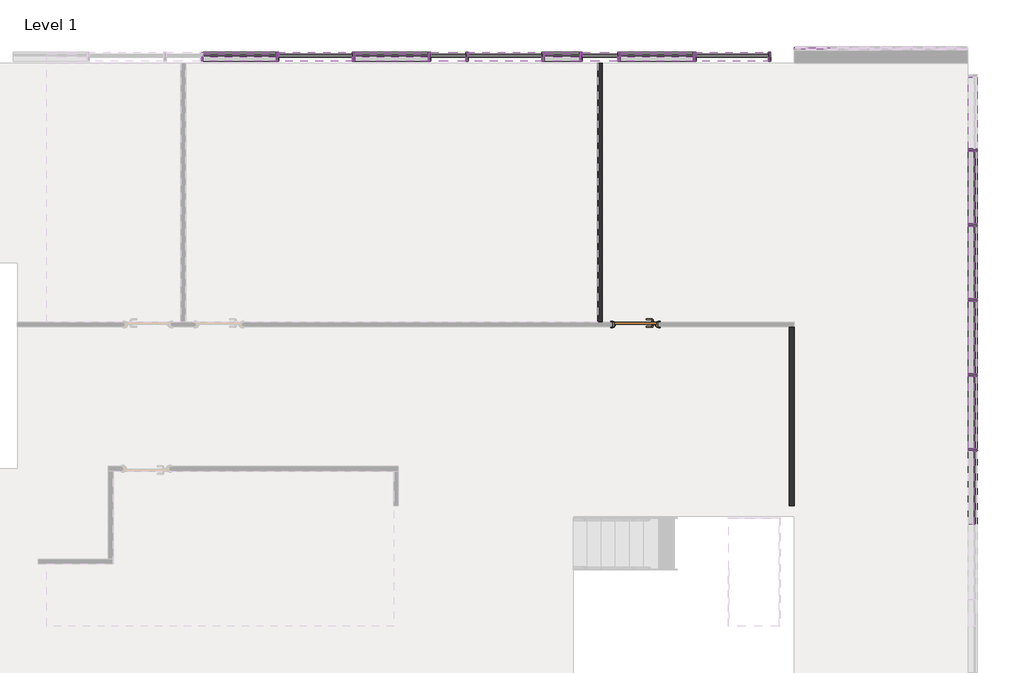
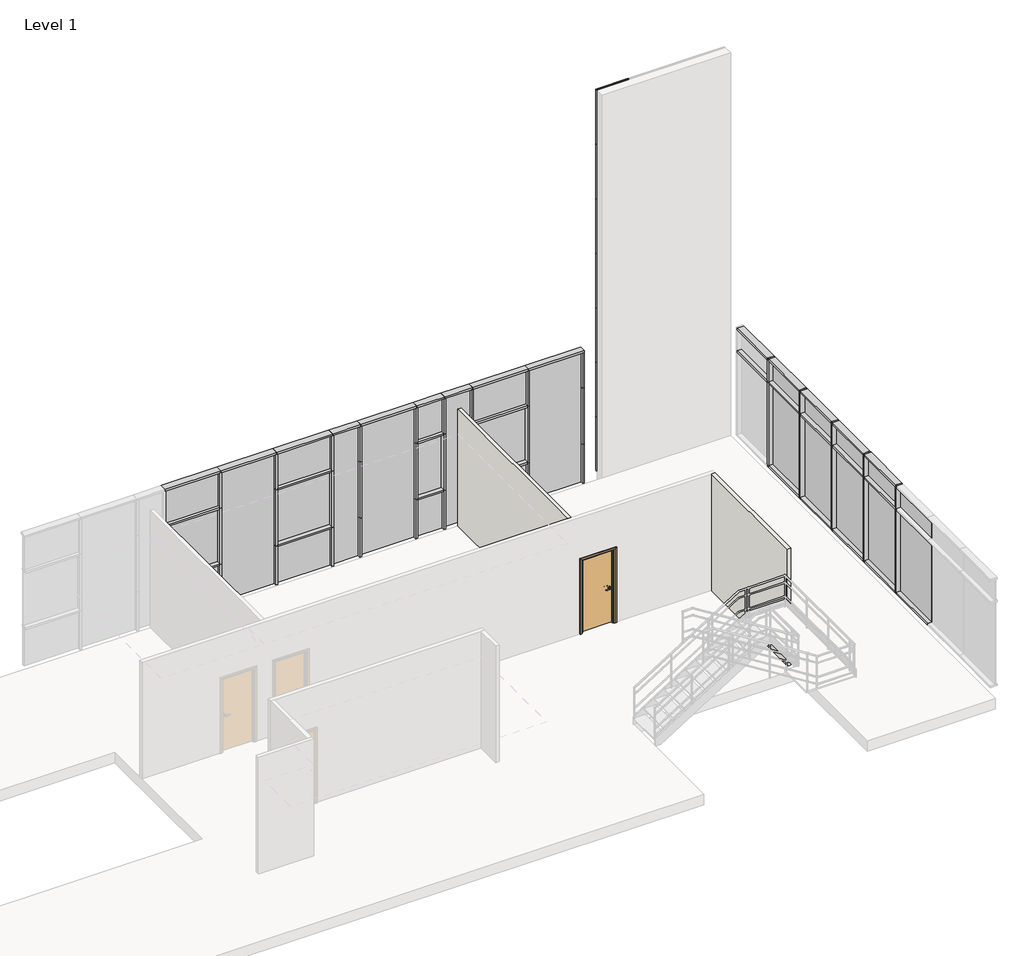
# One storey, part 6 of 10: 82 members, 27 plates, 2 walls, 1 door.
"""IFC4 building model written with IfcOpenShell, lengths in millimetres."""

from ifc_helpers import new_model, si_unit, frame, origin, place, context, project, spatial, polyline, outline, extrude, transform, mapped, element, save
from components import doors_intsgl_1_910x2110mm_ba118736, rectangular_mullion_25x25mm_154c87ff, rectangular_mullion_25x25mm_39486c0a, rectangular_mullion_25x25mm_7ca17579, rectangular_mullion_25x25mm_b3a713a3, rectangular_mullion_50x180mm_27940352, rectangular_mullion_50x180mm_f781141c, rectangular_mullion_50x180mm_fd91253e, rectangular_mullion_50x180mm_cfc9efda, rectangular_mullion_50x180mm_c30fec06, rectangular_mullion_50x180mm_55b63a96, rectangular_mullion_50x180mm_95299f7d, rectangular_mullion_50x180mm_7153291d, rectangular_mullion_50x180mm_f19e9633, rectangular_mullion_50x180mm_b6846536, rectangular_mullion_50x180mm_cd79a6a2, rectangular_mullion_50x180mm_1be9a22b, rectangular_mullion_50x180mm_9c6cddf7, rectangular_mullion_50x180mm_ee9895d7, rectangular_mullion_50x180mm_6af64579, rectangular_mullion_50x180mm_418feb2d, rectangular_mullion_50x180mm_827d9562, system_panel_black_panel_9e4711d2, system_panel_dark_grey_panel_d75652f0, system_panel_dark_grey_panel_1d6e0621, system_panel_glazed_dd63f223, system_panel_glazed_4915e1a0, system_panel_glazed_7f1c0332, system_panel_glazed_28d323ef, system_panel_glazed_53acddae, system_panel_glazed_79299351, system_panel_white_panel_6a64f577, system_panel_white_panel_a9ca731a, system_panel_white_panel_6c6c8c82, system_panel_white_panel_ff540c20

model = new_model("IFC4")

# Units and contexts
model_context = context("Model", 3, world=origin())
ifc_project = project(units=[si_unit("LENGTHUNIT", "METRE", prefix="MILLI")], contexts=[model_context])

# Site, building, storey
site = spatial("IfcSite", under=ifc_project)
building = spatial("IfcBuilding", under=site)
storey = spatial("IfcBuildingStorey", under=building, Name="Level 1", Elevation=3750.0)

# Door
placement = place(None, origin())
doors_intsgl_1_910x2110mm_shape = doors_intsgl_1_910x2110mm_ba118736(model_context)
element("IfcDoor", 1, ObjectType="Doors_IntSgl_1 : 910x2110mm", at=placement, inside=storey, context=model_context, shape_type="MappedRepresentation", body=[
    mapped(doors_intsgl_1_910x2110mm_shape, transform((36520.7942367, 3837.3025486, 3750.0), x_axis=(-1.0, 0.0, 0.0), y_axis=(0.0, -1.0, 0.0), z_axis=(0.0, 0.0, 1.0))),
])

# Members
rectangular_mullion_25x25mm_shape = rectangular_mullion_25x25mm_154c87ff(model_context)
element("IfcMember", 2, ObjectType="Rectangular Mullion : 25x25mm", at=placement, inside=storey, context=model_context, shape_type="MappedRepresentation", body=[
    mapped(rectangular_mullion_25x25mm_shape, transform((39655.7942367, 9282.4946591, 3775.0), x_axis=(-1.0, 0.0, 0.0), y_axis=(0.0, 1.0, 0.0), z_axis=(0.0, 0.0, -1.0))),
])
rectangular_mullion_25x25mm_2_shape = rectangular_mullion_25x25mm_39486c0a(model_context)
element("IfcMember", 3, ObjectType="Rectangular Mullion : 25x25mm", at=placement, inside=storey, context=model_context, shape_type="MappedRepresentation", body=[
    mapped(rectangular_mullion_25x25mm_2_shape, transform((39655.7942367, 9282.4946591, 5308.9285714), x_axis=(-1.0, 0.0, 0.0), y_axis=(0.0, 1.0, 0.0), z_axis=(0.0, 0.0, -1.0))),
])
element("IfcMember", 4, ObjectType="Rectangular Mullion : 25x25mm", at=placement, inside=storey, context=model_context, shape_type="MappedRepresentation", body=[
    mapped(rectangular_mullion_25x25mm_2_shape, transform((39655.7942367, 9282.4946591, 6855.3571429), x_axis=(-1.0, 0.0, 0.0), y_axis=(0.0, 1.0, 0.0), z_axis=(0.0, 0.0, -1.0))),
])
element("IfcMember", 5, ObjectType="Rectangular Mullion : 25x25mm", at=placement, inside=storey, context=model_context, shape_type="MappedRepresentation", body=[
    mapped(rectangular_mullion_25x25mm_2_shape, transform((39655.7942367, 9282.4946591, 8401.7857143), x_axis=(-1.0, 0.0, 0.0), y_axis=(0.0, 1.0, 0.0), z_axis=(0.0, 0.0, -1.0))),
])
element("IfcMember", 6, ObjectType="Rectangular Mullion : 25x25mm", at=placement, inside=storey, context=model_context, shape_type="MappedRepresentation", body=[
    mapped(rectangular_mullion_25x25mm_2_shape, transform((39655.7942367, 9282.4946591, 9948.2142857), x_axis=(-1.0, 0.0, 0.0), y_axis=(0.0, 1.0, 0.0), z_axis=(0.0, 0.0, -1.0))),
])
element("IfcMember", 7, ObjectType="Rectangular Mullion : 25x25mm", at=placement, inside=storey, context=model_context, shape_type="MappedRepresentation", body=[
    mapped(rectangular_mullion_25x25mm_2_shape, transform((39655.7942367, 9282.4946591, 11494.6428571), x_axis=(-1.0, 0.0, 0.0), y_axis=(0.0, 1.0, 0.0), z_axis=(0.0, 0.0, -1.0))),
])
element("IfcMember", 8, ObjectType="Rectangular Mullion : 25x25mm", at=placement, inside=storey, context=model_context, shape_type="MappedRepresentation", body=[
    mapped(rectangular_mullion_25x25mm_shape, transform((39655.7942367, 9282.4946591, 13041.0714286), x_axis=(-1.0, 0.0, 0.0), y_axis=(0.0, 1.0, 0.0), z_axis=(0.0, 0.0, -1.0))),
])
rectangular_mullion_25x25mm_3_shape = rectangular_mullion_25x25mm_7ca17579(model_context)
element("IfcMember", 9, ObjectType="Rectangular Mullion : 25x25mm", at=placement, inside=storey, context=model_context, shape_type="MappedRepresentation", body=[
    mapped(rectangular_mullion_25x25mm_3_shape, transform((39655.7942367, 9282.4946591, 14600.0), x_axis=(0.0, 0.0, 1.0), y_axis=(0.0, 1.0, 0.0), z_axis=(-1.0, 0.0, 0.0))),
])
rectangular_mullion_25x25mm_4_shape = rectangular_mullion_25x25mm_b3a713a3(model_context)
element("IfcMember", 10, ObjectType="Rectangular Mullion : 25x25mm", at=placement, inside=storey, context=model_context, shape_type="MappedRepresentation", body=[
    mapped(rectangular_mullion_25x25mm_4_shape, transform((39680.7942367, 9282.4946591, 5308.9285714), x_axis=(0.0, 0.0, 1.0), y_axis=(0.0, 1.0, 0.0), z_axis=(-1.0, 0.0, 0.0))),
])
element("IfcMember", 11, ObjectType="Rectangular Mullion : 25x25mm", at=placement, inside=storey, context=model_context, shape_type="MappedRepresentation", body=[
    mapped(rectangular_mullion_25x25mm_4_shape, transform((39680.7942367, 9282.4946591, 6855.3571429), x_axis=(0.0, 0.0, 1.0), y_axis=(0.0, 1.0, 0.0), z_axis=(-1.0, 0.0, 0.0))),
])
element("IfcMember", 12, ObjectType="Rectangular Mullion : 25x25mm", at=placement, inside=storey, context=model_context, shape_type="MappedRepresentation", body=[
    mapped(rectangular_mullion_25x25mm_4_shape, transform((39680.7942367, 9282.4946591, 8401.7857143), x_axis=(0.0, 0.0, 1.0), y_axis=(0.0, 1.0, 0.0), z_axis=(-1.0, 0.0, 0.0))),
])
element("IfcMember", 13, ObjectType="Rectangular Mullion : 25x25mm", at=placement, inside=storey, context=model_context, shape_type="MappedRepresentation", body=[
    mapped(rectangular_mullion_25x25mm_4_shape, transform((39680.7942367, 9282.4946591, 9948.2142857), x_axis=(0.0, 0.0, 1.0), y_axis=(0.0, 1.0, 0.0), z_axis=(-1.0, 0.0, 0.0))),
])
element("IfcMember", 14, ObjectType="Rectangular Mullion : 25x25mm", at=placement, inside=storey, context=model_context, shape_type="MappedRepresentation", body=[
    mapped(rectangular_mullion_25x25mm_4_shape, transform((39680.7942367, 9282.4946591, 11494.6428571), x_axis=(0.0, 0.0, 1.0), y_axis=(0.0, 1.0, 0.0), z_axis=(-1.0, 0.0, 0.0))),
])
rectangular_mullion_50x180mm_shape = rectangular_mullion_50x180mm_27940352(model_context)
element("IfcMember", 15, ObjectType="Rectangular Mullion : 50x180mm", at=placement, inside=storey, context=model_context, shape_type="MappedRepresentation", body=[
    mapped(rectangular_mullion_50x180mm_shape, transform((37693.2942367, 9132.4946591, 3750.0), x_axis=(1.0, 0.0, 0.0), y_axis=(0.0, -1.0, 0.0), z_axis=(0.0, 0.0, -1.0))),
])
element("IfcMember", 16, ObjectType="Rectangular Mullion : 50x180mm", at=placement, inside=storey, context=model_context, shape_type="MappedRepresentation", body=[
    mapped(rectangular_mullion_50x180mm_shape, transform((36193.2942367, 9132.4946591, 3750.0), x_axis=(1.0, 0.0, 0.0), y_axis=(0.0, -1.0, 0.0), z_axis=(0.0, 0.0, -1.0))),
])
element("IfcMember", 17, ObjectType="Rectangular Mullion : 50x180mm", at=placement, inside=storey, context=model_context, shape_type="MappedRepresentation", body=[
    mapped(rectangular_mullion_50x180mm_shape, transform((35443.2942367, 9132.4946591, 3750.0), x_axis=(1.0, 0.0, 0.0), y_axis=(0.0, -1.0, 0.0), z_axis=(0.0, 0.0, -1.0))),
])
element("IfcMember", 18, ObjectType="Rectangular Mullion : 50x180mm", at=placement, inside=storey, context=model_context, shape_type="MappedRepresentation", body=[
    mapped(rectangular_mullion_50x180mm_shape, transform((34693.2942367, 9132.4946591, 3750.0), x_axis=(1.0, 0.0, 0.0), y_axis=(0.0, -1.0, 0.0), z_axis=(0.0, 0.0, -1.0))),
])
element("IfcMember", 19, ObjectType="Rectangular Mullion : 50x180mm", at=placement, inside=storey, context=model_context, shape_type="MappedRepresentation", body=[
    mapped(rectangular_mullion_50x180mm_shape, transform((32443.2942367, 9132.4946591, 3750.0), x_axis=(1.0, 0.0, 0.0), y_axis=(0.0, -1.0, 0.0), z_axis=(0.0, 0.0, -1.0))),
])
element("IfcMember", 20, ObjectType="Rectangular Mullion : 50x180mm", at=placement, inside=storey, context=model_context, shape_type="MappedRepresentation", body=[
    mapped(rectangular_mullion_50x180mm_shape, transform((30943.2942367, 9132.4946591, 3750.0), x_axis=(1.0, 0.0, 0.0), y_axis=(0.0, -1.0, 0.0), z_axis=(0.0, 0.0, -1.0))),
])
element("IfcMember", 21, ObjectType="Rectangular Mullion : 50x180mm", at=placement, inside=storey, context=model_context, shape_type="MappedRepresentation", body=[
    mapped(rectangular_mullion_50x180mm_shape, transform((29443.2942367, 9132.4946591, 3750.0), x_axis=(1.0, 0.0, 0.0), y_axis=(0.0, -1.0, 0.0), z_axis=(0.0, 0.0, -1.0))),
])
element("IfcMember", 22, ObjectType="Rectangular Mullion : 50x180mm", at=placement, inside=storey, context=model_context, shape_type="MappedRepresentation", body=[
    mapped(rectangular_mullion_50x180mm_shape, transform((33193.2942367, 9132.4946591, 3750.0), x_axis=(1.0, 0.0, 0.0), y_axis=(0.0, -1.0, 0.0), z_axis=(0.0, 0.0, -1.0))),
])
rectangular_mullion_50x180mm_2_shape = rectangular_mullion_50x180mm_f781141c(model_context)
element("IfcMember", 23, ObjectType="Rectangular Mullion : 50x180mm", at=placement, inside=storey, context=model_context, shape_type="MappedRepresentation", body=[
    mapped(rectangular_mullion_50x180mm_2_shape, transform((29443.2942367, 9132.4946591, 4850.0), x_axis=(1.0, 0.0, 0.0), y_axis=(0.0, -1.0, 0.0), z_axis=(0.0, 0.0, -1.0))),
])
element("IfcMember", 24, ObjectType="Rectangular Mullion : 50x180mm", at=placement, inside=storey, context=model_context, shape_type="MappedRepresentation", body=[
    mapped(rectangular_mullion_50x180mm_2_shape, transform((30943.2942367, 9132.4946591, 4850.0), x_axis=(1.0, 0.0, 0.0), y_axis=(0.0, -1.0, 0.0), z_axis=(0.0, 0.0, -1.0))),
])
element("IfcMember", 25, ObjectType="Rectangular Mullion : 50x180mm", at=placement, inside=storey, context=model_context, shape_type="MappedRepresentation", body=[
    mapped(rectangular_mullion_50x180mm_2_shape, transform((32443.2942367, 9132.4946591, 4850.0), x_axis=(1.0, 0.0, 0.0), y_axis=(0.0, -1.0, 0.0), z_axis=(0.0, 0.0, -1.0))),
])
element("IfcMember", 26, ObjectType="Rectangular Mullion : 50x180mm", at=placement, inside=storey, context=model_context, shape_type="MappedRepresentation", body=[
    mapped(rectangular_mullion_50x180mm_2_shape, transform((34693.2942367, 9132.4946591, 4850.0), x_axis=(1.0, 0.0, 0.0), y_axis=(0.0, -1.0, 0.0), z_axis=(0.0, 0.0, -1.0))),
])
element("IfcMember", 27, ObjectType="Rectangular Mullion : 50x180mm", at=placement, inside=storey, context=model_context, shape_type="MappedRepresentation", body=[
    mapped(rectangular_mullion_50x180mm_2_shape, transform((35443.2942367, 9132.4946591, 4850.0), x_axis=(1.0, 0.0, 0.0), y_axis=(0.0, -1.0, 0.0), z_axis=(0.0, 0.0, -1.0))),
])
element("IfcMember", 28, ObjectType="Rectangular Mullion : 50x180mm", at=placement, inside=storey, context=model_context, shape_type="MappedRepresentation", body=[
    mapped(rectangular_mullion_50x180mm_2_shape, transform((36193.2942367, 9132.4946591, 4850.0), x_axis=(1.0, 0.0, 0.0), y_axis=(0.0, -1.0, 0.0), z_axis=(0.0, 0.0, -1.0))),
])
element("IfcMember", 29, ObjectType="Rectangular Mullion : 50x180mm", at=placement, inside=storey, context=model_context, shape_type="MappedRepresentation", body=[
    mapped(rectangular_mullion_50x180mm_2_shape, transform((37693.2942367, 9132.4946591, 4850.0), x_axis=(1.0, 0.0, 0.0), y_axis=(0.0, -1.0, 0.0), z_axis=(0.0, 0.0, -1.0))),
])
element("IfcMember", 30, ObjectType="Rectangular Mullion : 50x180mm", at=placement, inside=storey, context=model_context, shape_type="MappedRepresentation", body=[
    mapped(rectangular_mullion_50x180mm_2_shape, transform((33193.2942367, 9132.4946591, 4850.0), x_axis=(1.0, 0.0, 0.0), y_axis=(0.0, -1.0, 0.0), z_axis=(0.0, 0.0, -1.0))),
])
rectangular_mullion_50x180mm_3_shape = rectangular_mullion_50x180mm_fd91253e(model_context)
element("IfcMember", 31, ObjectType="Rectangular Mullion : 50x180mm", at=placement, inside=storey, context=model_context, shape_type="MappedRepresentation", body=[
    mapped(rectangular_mullion_50x180mm_3_shape, transform((37668.2942367, 9132.4946591, 4850.0), x_axis=(0.0, 0.0, 1.0), y_axis=(0.0, -1.0, 0.0), z_axis=(1.0, 0.0, 0.0))),
])
element("IfcMember", 32, ObjectType="Rectangular Mullion : 50x180mm", at=placement, inside=storey, context=model_context, shape_type="MappedRepresentation", body=[
    mapped(rectangular_mullion_50x180mm_3_shape, transform((37668.2942367, 9132.4946591, 6450.0), x_axis=(0.0, 0.0, 1.0), y_axis=(0.0, -1.0, 0.0), z_axis=(1.0, 0.0, 0.0))),
])
element("IfcMember", 33, ObjectType="Rectangular Mullion : 50x180mm", at=placement, inside=storey, context=model_context, shape_type="MappedRepresentation", body=[
    mapped(rectangular_mullion_50x180mm_3_shape, transform((29418.2942367, 9132.4946591, 4850.0), x_axis=(0.0, 0.0, 1.0), y_axis=(0.0, -1.0, 0.0), z_axis=(1.0, 0.0, 0.0))),
])
element("IfcMember", 34, ObjectType="Rectangular Mullion : 50x180mm", at=placement, inside=storey, context=model_context, shape_type="MappedRepresentation", body=[
    mapped(rectangular_mullion_50x180mm_3_shape, transform((32418.2942367, 9132.4946591, 4850.0), x_axis=(0.0, 0.0, 1.0), y_axis=(0.0, -1.0, 0.0), z_axis=(1.0, 0.0, 0.0))),
])
element("IfcMember", 35, ObjectType="Rectangular Mullion : 50x180mm", at=placement, inside=storey, context=model_context, shape_type="MappedRepresentation", body=[
    mapped(rectangular_mullion_50x180mm_3_shape, transform((29418.2942367, 9132.4946591, 6450.0), x_axis=(0.0, 0.0, 1.0), y_axis=(0.0, -1.0, 0.0), z_axis=(1.0, 0.0, 0.0))),
])
element("IfcMember", 36, ObjectType="Rectangular Mullion : 50x180mm", at=placement, inside=storey, context=model_context, shape_type="MappedRepresentation", body=[
    mapped(rectangular_mullion_50x180mm_3_shape, transform((32418.2942367, 9132.4946591, 6450.0), x_axis=(0.0, 0.0, 1.0), y_axis=(0.0, -1.0, 0.0), z_axis=(1.0, 0.0, 0.0))),
])
rectangular_mullion_50x180mm_4_shape = rectangular_mullion_50x180mm_cfc9efda(model_context)
element("IfcMember", 37, ObjectType="Rectangular Mullion : 50x180mm", at=placement, inside=storey, context=model_context, shape_type="MappedRepresentation", body=[
    mapped(rectangular_mullion_50x180mm_4_shape, transform((35418.2942367, 9132.4946591, 6450.0), x_axis=(0.0, 0.0, 1.0), y_axis=(0.0, -1.0, 0.0), z_axis=(1.0, 0.0, 0.0))),
])
element("IfcMember", 38, ObjectType="Rectangular Mullion : 50x180mm", at=placement, inside=storey, context=model_context, shape_type="MappedRepresentation", body=[
    mapped(rectangular_mullion_50x180mm_4_shape, transform((35418.2942367, 9132.4946591, 4850.0), x_axis=(0.0, 0.0, 1.0), y_axis=(0.0, -1.0, 0.0), z_axis=(1.0, 0.0, 0.0))),
])
rectangular_mullion_50x180mm_5_shape = rectangular_mullion_50x180mm_c30fec06(model_context)
element("IfcMember", 39, ObjectType="Rectangular Mullion : 50x180mm", at=placement, inside=storey, context=model_context, shape_type="MappedRepresentation", body=[
    mapped(rectangular_mullion_50x180mm_5_shape, transform((29443.2942367, 9132.4946591, 7500.0), x_axis=(0.0, 0.0, 1.0), y_axis=(0.0, -1.0, 0.0), z_axis=(1.0, 0.0, 0.0))),
])
element("IfcMember", 40, ObjectType="Rectangular Mullion : 50x180mm", at=placement, inside=storey, context=model_context, shape_type="MappedRepresentation", body=[
    mapped(rectangular_mullion_50x180mm_5_shape, transform((30943.2942367, 9132.4946591, 7500.0), x_axis=(0.0, 0.0, 1.0), y_axis=(0.0, -1.0, 0.0), z_axis=(1.0, 0.0, 0.0))),
])
element("IfcMember", 41, ObjectType="Rectangular Mullion : 50x180mm", at=placement, inside=storey, context=model_context, shape_type="MappedRepresentation", body=[
    mapped(rectangular_mullion_50x180mm_5_shape, transform((32443.2942367, 9132.4946591, 7500.0), x_axis=(0.0, 0.0, 1.0), y_axis=(0.0, -1.0, 0.0), z_axis=(1.0, 0.0, 0.0))),
])
element("IfcMember", 42, ObjectType="Rectangular Mullion : 50x180mm", at=placement, inside=storey, context=model_context, shape_type="MappedRepresentation", body=[
    mapped(rectangular_mullion_50x180mm_5_shape, transform((34693.2942367, 9132.4946591, 7500.0), x_axis=(0.0, 0.0, 1.0), y_axis=(0.0, -1.0, 0.0), z_axis=(1.0, 0.0, 0.0))),
])
element("IfcMember", 43, ObjectType="Rectangular Mullion : 50x180mm", at=placement, inside=storey, context=model_context, shape_type="MappedRepresentation", body=[
    mapped(rectangular_mullion_50x180mm_5_shape, transform((37693.2942367, 9132.4946591, 7500.0), x_axis=(0.0, 0.0, 1.0), y_axis=(0.0, -1.0, 0.0), z_axis=(1.0, 0.0, 0.0))),
])
rectangular_mullion_50x180mm_6_shape = rectangular_mullion_50x180mm_55b63a96(model_context)
element("IfcMember", 44, ObjectType="Rectangular Mullion : 50x180mm", at=placement, inside=storey, context=model_context, shape_type="MappedRepresentation", body=[
    mapped(rectangular_mullion_50x180mm_6_shape, transform((33193.2942367, 9132.4946591, 7500.0), x_axis=(0.0, 0.0, 1.0), y_axis=(0.0, -1.0, 0.0), z_axis=(1.0, 0.0, 0.0))),
])
element("IfcMember", 45, ObjectType="Rectangular Mullion : 50x180mm", at=placement, inside=storey, context=model_context, shape_type="MappedRepresentation", body=[
    mapped(rectangular_mullion_50x180mm_6_shape, transform((35443.2942367, 9132.4946591, 7500.0), x_axis=(0.0, 0.0, 1.0), y_axis=(0.0, -1.0, 0.0), z_axis=(1.0, 0.0, 0.0))),
])
element("IfcMember", 46, ObjectType="Rectangular Mullion : 50x180mm", at=placement, inside=storey, context=model_context, shape_type="MappedRepresentation", body=[
    mapped(rectangular_mullion_50x180mm_6_shape, transform((36193.2942367, 9132.4946591, 7500.0), x_axis=(0.0, 0.0, 1.0), y_axis=(0.0, -1.0, 0.0), z_axis=(1.0, 0.0, 0.0))),
])
element("IfcMember", 47, ObjectType="Rectangular Mullion : 50x180mm", at=placement, inside=storey, context=model_context, shape_type="MappedRepresentation", body=[
    mapped(rectangular_mullion_50x180mm_5_shape, transform((39193.2942367, 9132.4946591, 7500.0), x_axis=(0.0, 0.0, 1.0), y_axis=(0.0, -1.0, 0.0), z_axis=(1.0, 0.0, 0.0))),
])
rectangular_mullion_50x180mm_7_shape = rectangular_mullion_50x180mm_95299f7d(model_context)
element("IfcMember", 48, ObjectType="Rectangular Mullion : 50x180mm", at=placement, inside=storey, context=model_context, shape_type="MappedRepresentation", body=[
    mapped(rectangular_mullion_50x180mm_7_shape, transform((39193.2942367, 9132.4946591, 4850.0), x_axis=(1.0, 0.0, 0.0), y_axis=(0.0, -1.0, 0.0), z_axis=(0.0, 0.0, -1.0))),
])
rectangular_mullion_50x180mm_8_shape = rectangular_mullion_50x180mm_7153291d(model_context)
element("IfcMember", 49, ObjectType="Rectangular Mullion : 50x180mm", at=placement, inside=storey, context=model_context, shape_type="MappedRepresentation", body=[
    mapped(rectangular_mullion_50x180mm_8_shape, transform((39193.2942367, 9132.4946591, 3750.0), x_axis=(1.0, 0.0, 0.0), y_axis=(0.0, -1.0, 0.0), z_axis=(0.0, 0.0, -1.0))),
])
rectangular_mullion_50x180mm_9_shape = rectangular_mullion_50x180mm_f19e9633(model_context)
element("IfcMember", 50, ObjectType="Rectangular Mullion : 50x180mm", at=placement, inside=storey, context=model_context, shape_type="MappedRepresentation", body=[
    mapped(rectangular_mullion_50x180mm_9_shape, transform((34693.2942367, 9132.4946591, 6450.0), x_axis=(1.0, 0.0, 0.0), y_axis=(0.0, -1.0, 0.0), z_axis=(0.0, 0.0, -1.0))),
])
element("IfcMember", 51, ObjectType="Rectangular Mullion : 50x180mm", at=placement, inside=storey, context=model_context, shape_type="MappedRepresentation", body=[
    mapped(rectangular_mullion_50x180mm_9_shape, transform((35443.2942367, 9132.4946591, 6450.0), x_axis=(1.0, 0.0, 0.0), y_axis=(0.0, -1.0, 0.0), z_axis=(0.0, 0.0, -1.0))),
])
element("IfcMember", 52, ObjectType="Rectangular Mullion : 50x180mm", at=placement, inside=storey, context=model_context, shape_type="MappedRepresentation", body=[
    mapped(rectangular_mullion_50x180mm_9_shape, transform((36193.2942367, 9132.4946591, 6450.0), x_axis=(1.0, 0.0, 0.0), y_axis=(0.0, -1.0, 0.0), z_axis=(0.0, 0.0, -1.0))),
])
element("IfcMember", 53, ObjectType="Rectangular Mullion : 50x180mm", at=placement, inside=storey, context=model_context, shape_type="MappedRepresentation", body=[
    mapped(rectangular_mullion_50x180mm_9_shape, transform((37693.2942367, 9132.4946591, 6450.0), x_axis=(1.0, 0.0, 0.0), y_axis=(0.0, -1.0, 0.0), z_axis=(0.0, 0.0, -1.0))),
])
element("IfcMember", 54, ObjectType="Rectangular Mullion : 50x180mm", at=placement, inside=storey, context=model_context, shape_type="MappedRepresentation", body=[
    mapped(rectangular_mullion_50x180mm_9_shape, transform((32443.2942367, 9132.4946591, 6450.0), x_axis=(1.0, 0.0, 0.0), y_axis=(0.0, -1.0, 0.0), z_axis=(0.0, 0.0, -1.0))),
])
element("IfcMember", 55, ObjectType="Rectangular Mullion : 50x180mm", at=placement, inside=storey, context=model_context, shape_type="MappedRepresentation", body=[
    mapped(rectangular_mullion_50x180mm_9_shape, transform((30943.2942367, 9132.4946591, 6450.0), x_axis=(1.0, 0.0, 0.0), y_axis=(0.0, -1.0, 0.0), z_axis=(0.0, 0.0, -1.0))),
])
element("IfcMember", 56, ObjectType="Rectangular Mullion : 50x180mm", at=placement, inside=storey, context=model_context, shape_type="MappedRepresentation", body=[
    mapped(rectangular_mullion_50x180mm_9_shape, transform((29443.2942367, 9132.4946591, 6450.0), x_axis=(1.0, 0.0, 0.0), y_axis=(0.0, -1.0, 0.0), z_axis=(0.0, 0.0, -1.0))),
])
element("IfcMember", 57, ObjectType="Rectangular Mullion : 50x180mm", at=placement, inside=storey, context=model_context, shape_type="MappedRepresentation", body=[
    mapped(rectangular_mullion_50x180mm_9_shape, transform((33193.2942367, 9132.4946591, 6450.0), x_axis=(1.0, 0.0, 0.0), y_axis=(0.0, -1.0, 0.0), z_axis=(0.0, 0.0, -1.0))),
])
rectangular_mullion_50x180mm_10_shape = rectangular_mullion_50x180mm_b6846536(model_context)
element("IfcMember", 58, ObjectType="Rectangular Mullion : 50x180mm", at=placement, inside=storey, context=model_context, shape_type="MappedRepresentation", body=[
    mapped(rectangular_mullion_50x180mm_10_shape, transform((39193.2942367, 9132.4946591, 6450.0), x_axis=(1.0, 0.0, 0.0), y_axis=(0.0, -1.0, 0.0), z_axis=(0.0, 0.0, -1.0))),
])
rectangular_mullion_50x180mm_11_shape = rectangular_mullion_50x180mm_cd79a6a2(model_context)
element("IfcMember", 59, ObjectType="Rectangular Mullion : 50x180mm", at=placement, inside=storey, context=model_context, shape_type="MappedRepresentation", body=[
    mapped(rectangular_mullion_50x180mm_11_shape, transform((43193.2942367, 7289.6821589, 3900.0), x_axis=(0.0, -1.0, 0.0), y_axis=(-1.0, 0.0, 0.0), z_axis=(0.0, 0.0, -1.0))),
])
element("IfcMember", 60, ObjectType="Rectangular Mullion : 50x180mm", at=placement, inside=storey, context=model_context, shape_type="MappedRepresentation", body=[
    mapped(rectangular_mullion_50x180mm_11_shape, transform((43193.2942367, 5806.869659, 3900.0), x_axis=(0.0, -1.0, 0.0), y_axis=(-1.0, 0.0, 0.0), z_axis=(0.0, 0.0, -1.0))),
])
element("IfcMember", 61, ObjectType="Rectangular Mullion : 50x180mm", at=placement, inside=storey, context=model_context, shape_type="MappedRepresentation", body=[
    mapped(rectangular_mullion_50x180mm_11_shape, transform((43193.2942367, 4324.0571591, 3900.0), x_axis=(0.0, -1.0, 0.0), y_axis=(-1.0, 0.0, 0.0), z_axis=(0.0, 0.0, -1.0))),
])
element("IfcMember", 62, ObjectType="Rectangular Mullion : 50x180mm", at=placement, inside=storey, context=model_context, shape_type="MappedRepresentation", body=[
    mapped(rectangular_mullion_50x180mm_11_shape, transform((43193.2942367, 2841.2446591, 3900.0), x_axis=(0.0, -1.0, 0.0), y_axis=(-1.0, 0.0, 0.0), z_axis=(0.0, 0.0, -1.0))),
])
element("IfcMember", 63, ObjectType="Rectangular Mullion : 50x180mm", at=placement, inside=storey, context=model_context, shape_type="MappedRepresentation", body=[
    mapped(rectangular_mullion_50x180mm_11_shape, transform((43193.2942367, 1358.4321592, 3900.0), x_axis=(0.0, -1.0, 0.0), y_axis=(-1.0, 0.0, 0.0), z_axis=(0.0, 0.0, -1.0))),
])
rectangular_mullion_50x180mm_12_shape = rectangular_mullion_50x180mm_1be9a22b(model_context)
element("IfcMember", 64, ObjectType="Rectangular Mullion : 50x180mm", at=placement, inside=storey, context=model_context, shape_type="MappedRepresentation", body=[
    mapped(rectangular_mullion_50x180mm_12_shape, transform((43193.2942367, 7314.6821589, 6965.0), x_axis=(0.0, 0.0, 1.0), y_axis=(-1.0, 0.0, 0.0), z_axis=(0.0, -1.0, 0.0))),
])
rectangular_mullion_50x180mm_13_shape = rectangular_mullion_50x180mm_9c6cddf7(model_context)
element("IfcMember", 65, ObjectType="Rectangular Mullion : 50x180mm", at=placement, inside=storey, context=model_context, shape_type="MappedRepresentation", body=[
    mapped(rectangular_mullion_50x180mm_13_shape, transform((43193.2942367, 5831.869659, 6965.0), x_axis=(0.0, 0.0, 1.0), y_axis=(-1.0, 0.0, 0.0), z_axis=(0.0, -1.0, 0.0))),
])
element("IfcMember", 66, ObjectType="Rectangular Mullion : 50x180mm", at=placement, inside=storey, context=model_context, shape_type="MappedRepresentation", body=[
    mapped(rectangular_mullion_50x180mm_13_shape, transform((43193.2942367, 4349.0571591, 6965.0), x_axis=(0.0, 0.0, 1.0), y_axis=(-1.0, 0.0, 0.0), z_axis=(0.0, -1.0, 0.0))),
])
element("IfcMember", 67, ObjectType="Rectangular Mullion : 50x180mm", at=placement, inside=storey, context=model_context, shape_type="MappedRepresentation", body=[
    mapped(rectangular_mullion_50x180mm_13_shape, transform((43193.2942367, 2866.2446591, 6965.0), x_axis=(0.0, 0.0, 1.0), y_axis=(-1.0, 0.0, 0.0), z_axis=(0.0, -1.0, 0.0))),
])
element("IfcMember", 68, ObjectType="Rectangular Mullion : 50x180mm", at=placement, inside=storey, context=model_context, shape_type="MappedRepresentation", body=[
    mapped(rectangular_mullion_50x180mm_13_shape, transform((43193.2942367, 1383.4321592, 6965.0), x_axis=(0.0, 0.0, 1.0), y_axis=(-1.0, 0.0, 0.0), z_axis=(0.0, -1.0, 0.0))),
])
element("IfcMember", 69, ObjectType="Rectangular Mullion : 50x180mm", at=placement, inside=storey, context=model_context, shape_type="MappedRepresentation", body=[
    mapped(rectangular_mullion_50x180mm_13_shape, transform((43193.2942367, 7264.6821589, 3900.0), x_axis=(0.0, 0.0, -1.0), y_axis=(-1.0, 0.0, 0.0), z_axis=(0.0, 1.0, 0.0))),
])
element("IfcMember", 70, ObjectType="Rectangular Mullion : 50x180mm", at=placement, inside=storey, context=model_context, shape_type="MappedRepresentation", body=[
    mapped(rectangular_mullion_50x180mm_13_shape, transform((43193.2942367, 5781.869659, 3900.0), x_axis=(0.0, 0.0, -1.0), y_axis=(-1.0, 0.0, 0.0), z_axis=(0.0, 1.0, 0.0))),
])
element("IfcMember", 71, ObjectType="Rectangular Mullion : 50x180mm", at=placement, inside=storey, context=model_context, shape_type="MappedRepresentation", body=[
    mapped(rectangular_mullion_50x180mm_13_shape, transform((43193.2942367, 4299.0571591, 3900.0), x_axis=(0.0, 0.0, -1.0), y_axis=(-1.0, 0.0, 0.0), z_axis=(0.0, 1.0, 0.0))),
])
element("IfcMember", 72, ObjectType="Rectangular Mullion : 50x180mm", at=placement, inside=storey, context=model_context, shape_type="MappedRepresentation", body=[
    mapped(rectangular_mullion_50x180mm_13_shape, transform((43193.2942367, 2816.2446591, 3900.0), x_axis=(0.0, 0.0, -1.0), y_axis=(-1.0, 0.0, 0.0), z_axis=(0.0, 1.0, 0.0))),
])
rectangular_mullion_50x180mm_14_shape = rectangular_mullion_50x180mm_ee9895d7(model_context)
element("IfcMember", 73, ObjectType="Rectangular Mullion : 50x180mm", at=placement, inside=storey, context=model_context, shape_type="MappedRepresentation", body=[
    mapped(rectangular_mullion_50x180mm_14_shape, transform((43193.2942367, 1333.4321592, 3900.0), x_axis=(0.0, 0.0, -1.0), y_axis=(-1.0, 0.0, 0.0), z_axis=(0.0, 1.0, 0.0))),
])
rectangular_mullion_50x180mm_15_shape = rectangular_mullion_50x180mm_6af64579(model_context)
element("IfcMember", 74, ObjectType="Rectangular Mullion : 50x180mm", at=placement, inside=storey, context=model_context, shape_type="MappedRepresentation", body=[
    mapped(rectangular_mullion_50x180mm_15_shape, transform((43193.2942367, 7314.6821589, 6300.0), x_axis=(0.0, 0.0, 1.0), y_axis=(-1.0, 0.0, 0.0), z_axis=(0.0, -1.0, 0.0))),
])
rectangular_mullion_50x180mm_16_shape = rectangular_mullion_50x180mm_418feb2d(model_context)
element("IfcMember", 75, ObjectType="Rectangular Mullion : 50x180mm", at=placement, inside=storey, context=model_context, shape_type="MappedRepresentation", body=[
    mapped(rectangular_mullion_50x180mm_16_shape, transform((43193.2942367, 5831.869659, 6300.0), x_axis=(0.0, 0.0, 1.0), y_axis=(-1.0, 0.0, 0.0), z_axis=(0.0, -1.0, 0.0))),
])
element("IfcMember", 76, ObjectType="Rectangular Mullion : 50x180mm", at=placement, inside=storey, context=model_context, shape_type="MappedRepresentation", body=[
    mapped(rectangular_mullion_50x180mm_16_shape, transform((43193.2942367, 4349.0571591, 6300.0), x_axis=(0.0, 0.0, 1.0), y_axis=(-1.0, 0.0, 0.0), z_axis=(0.0, -1.0, 0.0))),
])
element("IfcMember", 77, ObjectType="Rectangular Mullion : 50x180mm", at=placement, inside=storey, context=model_context, shape_type="MappedRepresentation", body=[
    mapped(rectangular_mullion_50x180mm_16_shape, transform((43193.2942367, 2866.2446591, 6300.0), x_axis=(0.0, 0.0, 1.0), y_axis=(-1.0, 0.0, 0.0), z_axis=(0.0, -1.0, 0.0))),
])
element("IfcMember", 78, ObjectType="Rectangular Mullion : 50x180mm", at=placement, inside=storey, context=model_context, shape_type="MappedRepresentation", body=[
    mapped(rectangular_mullion_50x180mm_16_shape, transform((43193.2942367, 1383.4321592, 6300.0), x_axis=(0.0, 0.0, 1.0), y_axis=(-1.0, 0.0, 0.0), z_axis=(0.0, -1.0, 0.0))),
])
rectangular_mullion_50x180mm_17_shape = rectangular_mullion_50x180mm_827d9562(model_context)
element("IfcMember", 79, ObjectType="Rectangular Mullion : 50x180mm", at=placement, inside=storey, context=model_context, shape_type="MappedRepresentation", body=[
    mapped(rectangular_mullion_50x180mm_17_shape, transform((43193.2942367, 7289.6821589, 6300.0), x_axis=(0.0, -1.0, 0.0), y_axis=(-1.0, 0.0, 0.0), z_axis=(0.0, 0.0, -1.0))),
])
element("IfcMember", 80, ObjectType="Rectangular Mullion : 50x180mm", at=placement, inside=storey, context=model_context, shape_type="MappedRepresentation", body=[
    mapped(rectangular_mullion_50x180mm_17_shape, transform((43193.2942367, 5806.869659, 6300.0), x_axis=(0.0, -1.0, 0.0), y_axis=(-1.0, 0.0, 0.0), z_axis=(0.0, 0.0, -1.0))),
])
element("IfcMember", 81, ObjectType="Rectangular Mullion : 50x180mm", at=placement, inside=storey, context=model_context, shape_type="MappedRepresentation", body=[
    mapped(rectangular_mullion_50x180mm_17_shape, transform((43193.2942367, 4324.0571591, 6300.0), x_axis=(0.0, -1.0, 0.0), y_axis=(-1.0, 0.0, 0.0), z_axis=(0.0, 0.0, -1.0))),
])
element("IfcMember", 82, ObjectType="Rectangular Mullion : 50x180mm", at=placement, inside=storey, context=model_context, shape_type="MappedRepresentation", body=[
    mapped(rectangular_mullion_50x180mm_17_shape, transform((43193.2942367, 2841.2446591, 6300.0), x_axis=(0.0, -1.0, 0.0), y_axis=(-1.0, 0.0, 0.0), z_axis=(0.0, 0.0, -1.0))),
])
element("IfcMember", 83, ObjectType="Rectangular Mullion : 50x180mm", at=placement, inside=storey, context=model_context, shape_type="MappedRepresentation", body=[
    mapped(rectangular_mullion_50x180mm_17_shape, transform((43193.2942367, 1358.4321592, 6300.0), x_axis=(0.0, -1.0, 0.0), y_axis=(-1.0, 0.0, 0.0), z_axis=(0.0, 0.0, -1.0))),
])

# Plates
system_panel_black_panel_shape = system_panel_black_panel_9e4711d2(model_context)
element("IfcPlate", 84, ObjectType="System Panel : Black-Panel", at=placement, inside=storey, context=model_context, shape_type="MappedRepresentation", body=[
    mapped(system_panel_black_panel_shape, transform((35818.2942367, 9132.4946591, 3750.0), x_axis=(1.0, 0.0, 0.0), y_axis=(0.0, 1.0, 0.0), z_axis=(0.0, 0.0, 1.0))),
])
element("IfcPlate", 85, ObjectType="System Panel : Black-Panel", at=placement, inside=storey, context=model_context, shape_type="MappedRepresentation", body=[
    mapped(system_panel_black_panel_shape, transform((32818.2942367, 9132.4946591, 3750.0), x_axis=(1.0, 0.0, 0.0), y_axis=(0.0, 1.0, 0.0), z_axis=(0.0, 0.0, 1.0))),
])
system_panel_dark_grey_panel_shape = system_panel_dark_grey_panel_d75652f0(model_context)
element("IfcPlate", 86, ObjectType="System Panel : Dark Grey-Panel", at=placement, inside=storey, context=model_context, shape_type="MappedRepresentation", body=[
    mapped(system_panel_dark_grey_panel_shape, transform((38430.7942367, 9132.4946591, 3750.0), x_axis=(1.0, 0.0, 0.0), y_axis=(0.0, 1.0, 0.0), z_axis=(0.0, 0.0, 1.0))),
])
system_panel_dark_grey_panel_2_shape = system_panel_dark_grey_panel_1d6e0621(model_context)
element("IfcPlate", 87, ObjectType="System Panel : Dark Grey-Panel", at=placement, inside=storey, context=model_context, shape_type="MappedRepresentation", body=[
    mapped(system_panel_dark_grey_panel_2_shape, transform((33943.2942367, 9132.4946591, 3750.0), x_axis=(1.0, 0.0, 0.0), y_axis=(0.0, 1.0, 0.0), z_axis=(0.0, 0.0, 1.0))),
])
element("IfcPlate", 88, ObjectType="System Panel : Dark Grey-Panel", at=placement, inside=storey, context=model_context, shape_type="MappedRepresentation", body=[
    mapped(system_panel_dark_grey_panel_2_shape, transform((30193.2942367, 9132.4946591, 3750.0), x_axis=(1.0, 0.0, 0.0), y_axis=(0.0, 1.0, 0.0), z_axis=(0.0, 0.0, 1.0))),
])
system_panel_glazed_shape = system_panel_glazed_dd63f223(model_context)
element("IfcPlate", 89, ObjectType="System Panel : Glazed", at=placement, inside=storey, context=model_context, shape_type="MappedRepresentation", body=[
    mapped(system_panel_glazed_shape, transform((35068.2942367, 9132.4946591, 4875.0), x_axis=(1.0, 0.0, 0.0), y_axis=(0.0, 1.0, 0.0), z_axis=(0.0, 0.0, 1.0))),
])
system_panel_glazed_2_shape = system_panel_glazed_4915e1a0(model_context)
element("IfcPlate", 90, ObjectType="System Panel : Glazed", at=placement, inside=storey, context=model_context, shape_type="MappedRepresentation", body=[
    mapped(system_panel_glazed_2_shape, transform((36943.2942367, 9132.4946591, 4875.0), x_axis=(1.0, 0.0, 0.0), y_axis=(0.0, 1.0, 0.0), z_axis=(0.0, 0.0, 1.0))),
])
element("IfcPlate", 91, ObjectType="System Panel : Glazed", at=placement, inside=storey, context=model_context, shape_type="MappedRepresentation", body=[
    mapped(system_panel_glazed_2_shape, transform((31693.2942367, 9132.4946591, 4875.0), x_axis=(1.0, 0.0, 0.0), y_axis=(0.0, 1.0, 0.0), z_axis=(0.0, 0.0, 1.0))),
])
element("IfcPlate", 92, ObjectType="System Panel : Glazed", at=placement, inside=storey, context=model_context, shape_type="MappedRepresentation", body=[
    mapped(system_panel_glazed_2_shape, transform((28693.2942367, 9132.4946591, 4875.0), x_axis=(1.0, 0.0, 0.0), y_axis=(0.0, 1.0, 0.0), z_axis=(0.0, 0.0, 1.0))),
])
system_panel_glazed_3_shape = system_panel_glazed_7f1c0332(model_context)
element("IfcPlate", 93, ObjectType="System Panel : Glazed", at=placement, inside=storey, context=model_context, shape_type="MappedRepresentation", body=[
    mapped(system_panel_glazed_3_shape, transform((43193.2942367, 6548.275909, 3950.0), x_axis=(0.0, -1.0, 0.0), y_axis=(1.0, 0.0, 0.0), z_axis=(0.0, 0.0, 1.0))),
])
element("IfcPlate", 94, ObjectType="System Panel : Glazed", at=placement, inside=storey, context=model_context, shape_type="MappedRepresentation", body=[
    mapped(system_panel_glazed_3_shape, transform((43193.2942367, 5065.463409, 3950.0), x_axis=(0.0, -1.0, 0.0), y_axis=(1.0, 0.0, 0.0), z_axis=(0.0, 0.0, 1.0))),
])
element("IfcPlate", 95, ObjectType="System Panel : Glazed", at=placement, inside=storey, context=model_context, shape_type="MappedRepresentation", body=[
    mapped(system_panel_glazed_3_shape, transform((43193.2942367, 3582.6509091, 3950.0), x_axis=(0.0, -1.0, 0.0), y_axis=(1.0, 0.0, 0.0), z_axis=(0.0, 0.0, 1.0))),
])
element("IfcPlate", 96, ObjectType="System Panel : Glazed", at=placement, inside=storey, context=model_context, shape_type="MappedRepresentation", body=[
    mapped(system_panel_glazed_3_shape, transform((43193.2942367, 2099.8384092, 3950.0), x_axis=(0.0, -1.0, 0.0), y_axis=(1.0, 0.0, 0.0), z_axis=(0.0, 0.0, 1.0))),
])
system_panel_glazed_4_shape = system_panel_glazed_28d323ef(model_context)
element("IfcPlate", 97, ObjectType="System Panel : Glazed", at=placement, inside=storey, context=model_context, shape_type="MappedRepresentation", body=[
    mapped(system_panel_glazed_4_shape, transform((43193.2942367, 604.5259093, 3950.0), x_axis=(0.0, -1.0, 0.0), y_axis=(1.0, 0.0, 0.0), z_axis=(0.0, 0.0, 1.0))),
])
system_panel_glazed_5_shape = system_panel_glazed_53acddae(model_context)
element("IfcPlate", 98, ObjectType="System Panel : Glazed", at=placement, inside=storey, context=model_context, shape_type="MappedRepresentation", body=[
    mapped(system_panel_glazed_5_shape, transform((43193.2942367, 6548.275909, 6325.0), x_axis=(0.0, -1.0, 0.0), y_axis=(1.0, 0.0, 0.0), z_axis=(0.0, 0.0, 1.0))),
])
element("IfcPlate", 99, ObjectType="System Panel : Glazed", at=placement, inside=storey, context=model_context, shape_type="MappedRepresentation", body=[
    mapped(system_panel_glazed_5_shape, transform((43193.2942367, 5065.463409, 6325.0), x_axis=(0.0, -1.0, 0.0), y_axis=(1.0, 0.0, 0.0), z_axis=(0.0, 0.0, 1.0))),
])
element("IfcPlate", 100, ObjectType="System Panel : Glazed", at=placement, inside=storey, context=model_context, shape_type="MappedRepresentation", body=[
    mapped(system_panel_glazed_5_shape, transform((43193.2942367, 3582.6509091, 6325.0), x_axis=(0.0, -1.0, 0.0), y_axis=(1.0, 0.0, 0.0), z_axis=(0.0, 0.0, 1.0))),
])
element("IfcPlate", 101, ObjectType="System Panel : Glazed", at=placement, inside=storey, context=model_context, shape_type="MappedRepresentation", body=[
    mapped(system_panel_glazed_5_shape, transform((43193.2942367, 2099.8384092, 6325.0), x_axis=(0.0, -1.0, 0.0), y_axis=(1.0, 0.0, 0.0), z_axis=(0.0, 0.0, 1.0))),
])
system_panel_glazed_6_shape = system_panel_glazed_79299351(model_context)
element("IfcPlate", 102, ObjectType="System Panel : Glazed", at=placement, inside=storey, context=model_context, shape_type="MappedRepresentation", body=[
    mapped(system_panel_glazed_6_shape, transform((43193.2942367, 604.5259093, 6325.0), x_axis=(0.0, -1.0, 0.0), y_axis=(1.0, 0.0, 0.0), z_axis=(0.0, 0.0, 1.0))),
])
system_panel_white_panel_shape = system_panel_white_panel_6a64f577(model_context)
element("IfcPlate", 103, ObjectType="System Panel : White-Panel", at=placement, inside=storey, context=model_context, shape_type="MappedRepresentation", body=[
    mapped(system_panel_white_panel_shape, transform((36943.2942367, 9132.4946591, 3750.0), x_axis=(1.0, 0.0, 0.0), y_axis=(0.0, 1.0, 0.0), z_axis=(0.0, 0.0, 1.0))),
])
element("IfcPlate", 104, ObjectType="System Panel : White-Panel", at=placement, inside=storey, context=model_context, shape_type="MappedRepresentation", body=[
    mapped(system_panel_white_panel_shape, transform((31693.2942367, 9132.4946591, 3750.0), x_axis=(1.0, 0.0, 0.0), y_axis=(0.0, 1.0, 0.0), z_axis=(0.0, 0.0, 1.0))),
])
element("IfcPlate", 105, ObjectType="System Panel : White-Panel", at=placement, inside=storey, context=model_context, shape_type="MappedRepresentation", body=[
    mapped(system_panel_white_panel_shape, transform((28693.2942367, 9132.4946591, 3750.0), x_axis=(1.0, 0.0, 0.0), y_axis=(0.0, 1.0, 0.0), z_axis=(0.0, 0.0, 1.0))),
])
system_panel_white_panel_2_shape = system_panel_white_panel_a9ca731a(model_context)
element("IfcPlate", 106, ObjectType="System Panel : White-Panel", at=placement, inside=storey, context=model_context, shape_type="MappedRepresentation", body=[
    mapped(system_panel_white_panel_2_shape, transform((35068.2942367, 9132.4946591, 3750.0), x_axis=(1.0, 0.0, 0.0), y_axis=(0.0, 1.0, 0.0), z_axis=(0.0, 0.0, 1.0))),
])
system_panel_white_panel_3_shape = system_panel_white_panel_6c6c8c82(model_context)
element("IfcPlate", 107, ObjectType="System Panel : White-Panel", at=placement, inside=storey, context=model_context, shape_type="MappedRepresentation", body=[
    mapped(system_panel_white_panel_3_shape, transform((35068.2942367, 9132.4946591, 6475.0), x_axis=(1.0, 0.0, 0.0), y_axis=(0.0, 1.0, 0.0), z_axis=(0.0, 0.0, 1.0))),
])
system_panel_white_panel_4_shape = system_panel_white_panel_ff540c20(model_context)
element("IfcPlate", 108, ObjectType="System Panel : White-Panel", at=placement, inside=storey, context=model_context, shape_type="MappedRepresentation", body=[
    mapped(system_panel_white_panel_4_shape, transform((36943.2942367, 9132.4946591, 6475.0), x_axis=(1.0, 0.0, 0.0), y_axis=(0.0, 1.0, 0.0), z_axis=(0.0, 0.0, 1.0))),
])
element("IfcPlate", 109, ObjectType="System Panel : White-Panel", at=placement, inside=storey, context=model_context, shape_type="MappedRepresentation", body=[
    mapped(system_panel_white_panel_4_shape, transform((31693.2942367, 9132.4946591, 6475.0), x_axis=(1.0, 0.0, 0.0), y_axis=(0.0, 1.0, 0.0), z_axis=(0.0, 0.0, 1.0))),
])
element("IfcPlate", 110, ObjectType="System Panel : White-Panel", at=placement, inside=storey, context=model_context, shape_type="MappedRepresentation", body=[
    mapped(system_panel_white_panel_4_shape, transform((28693.2942367, 9132.4946591, 6475.0), x_axis=(1.0, 0.0, 0.0), y_axis=(0.0, 1.0, 0.0), z_axis=(0.0, 0.0, 1.0))),
])

# Walls
element("IfcWall", 111, ObjectType="Wall-Partn_12P-70MStd-12P", at=placement, inside=storey, context=model_context, shape_type="SweptSolid", body=[
    extrude(outline(polyline([(35865.7942367, 9007.4946591), (35865.7942367, 3884.8025486), (35770.7942367, 3884.8025486), (35770.7942367, 9007.4946591), (35865.7942367, 9007.4946591)])), frame((0.0, 0.0, 3750.0), z_axis=(0.0, 0.0, 1.0), x_axis=(1.0, 0.0, 0.0)), (0.0, 0.0, 1.0), 3315.0),
])
element("IfcWall", 112, ObjectType="Wall-Partn_12P-70MStd-12P", at=placement, inside=storey, context=model_context, shape_type="SweptSolid", body=[
    extrude(outline(polyline([(39560.7942367, 256.8025492), (39560.7942367, 3789.8025486), (39655.7942367, 3789.8025486), (39655.7942367, 256.8025492), (39560.7942367, 256.8025492)])), frame((0.0, 0.0, 3750.0), z_axis=(0.0, 0.0, 1.0), x_axis=(1.0, 0.0, 0.0)), (0.0, 0.0, 1.0), 3315.0),
])

save(model, "model.ifc")
